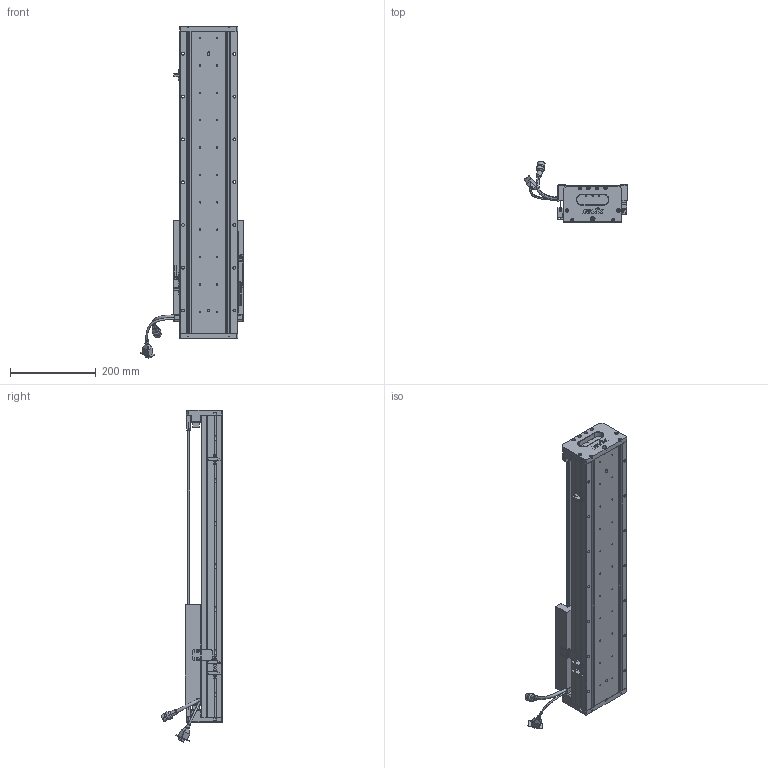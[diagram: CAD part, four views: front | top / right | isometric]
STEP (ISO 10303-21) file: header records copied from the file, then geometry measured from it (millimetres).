
FILE_DESCRIPTION (( 'STEP AP203' ), '1' );
FILE_NAME ('Z3-RY140D-1-L500-B-K.SLDASM_0400.step', '2021-05-17T08:00:09', ( '盈信电脑' ), ( '东莞市道滘镇水果街19号' ), 'SwSTEP 2.0', 'SolidWorks 2016', '' );
FILE_SCHEMA (( 'CONFIG_CONTROL_DESIGN' ));
Length unit declared in the file: millimetre
Products named in the file (36): SCREW-M1.6-2; 140雄赽晤鎢ん堤盄; LABEL; COVER; LABEL-Part-1; COVER-Part-1; Z-RY140詩湍狟揤裔; Z3-RY140圉猾敕臏賑輸(21遴); PSLH080_PSLF2; SCALE-Part-2; Z3-RY140-L500詩湍100mm遵_0400; SCREW-M1.6; HOLDER0; PBU_SHEET; 140-Z-臏賑輸盄裔(21遴); Z3-RY140-L500直线电机模组底座_0400; SCREW-M1.7; Z-RY140感应器672光电感应片; Z3-RY140D-1-L500-B-K.SLDASM_0400; 140蚥薯蝶輸; SCREW-M1.7-1; SHIELDPLATE; 榋妏寠巭燃_暯_M2_2; SCREW-M1.6-1; SCALE-Part-1; SEAL-Part-1; 覜茼ん672; 080黍杅芛假蚾釱21遴; SEAL; SCALE; HARNESS; Z-RY140詩湍奻揤裔; HARNESS-Part-2; Z-140詩湍傷裔啣; SCREW-M1.6-3; HARNESS-Part-1
Assembly tree (41 placements, depth 4):
  Z3-RY140D-1-L500-B-K.SLDASM_0400
    Z3-RY140-L500直线电机模组底座_0400
    Z-RY140感应器672光电感应片
    Z3-RY140圉猾敕臏賑輸(21遴)
    覜茼ん672  x3
    Z3-RY140-L500詩湍100mm遵_0400
    PSLH080_PSLF2
      SCALE
        SCALE-Part-1
        SCALE-Part-2
      HARNESS
        HARNESS-Part-1
        HARNESS-Part-2
      LABEL
        LABEL-Part-1
      COVER
        COVER-Part-1
      SEAL
        SEAL-Part-1
      榋妏寠巭燃_暯_M2_2
      SHIELDPLATE
      SCREW-M1.7
      SCREW-M1.7-1
      PBU_SHEET
      SCREW-M1.6
      SCREW-M1.6-1
      SCREW-M1.6-2
      SCREW-M1.6-3
      HOLDER0
    080黍杅芛假蚾釱21遴
    140-Z-臏賑輸盄裔(21遴)
    Z-140詩湍傷裔啣  x2
    Z-RY140詩湍狟揤裔  x2
    Z-RY140詩湍奻揤裔  x2
    140蚥薯蝶輸  x2
    140雄赽晤鎢ん堤盄
Bounding box: 239.84 x 143.88 x 775.88 mm (x, y, z)
Volume: 3196829.4 mm3; surface area: 818894.3 mm2
Topology: 36 solids, 36 shells, 2750 faces, 7186 edges, 4547 vertices
Faces by surface type: cylinder 1248, plane 1102, cone 278, torus 69, bspline 53
Entity records: 78782 total; most frequent: CARTESIAN_POINT 19171, DIRECTION 11650, ORIENTED_EDGE 11540, EDGE_CURVE 5770, AXIS2_PLACEMENT_3D 4274, VERTEX_POINT 3715, VECTOR 3102, LINE 3102
